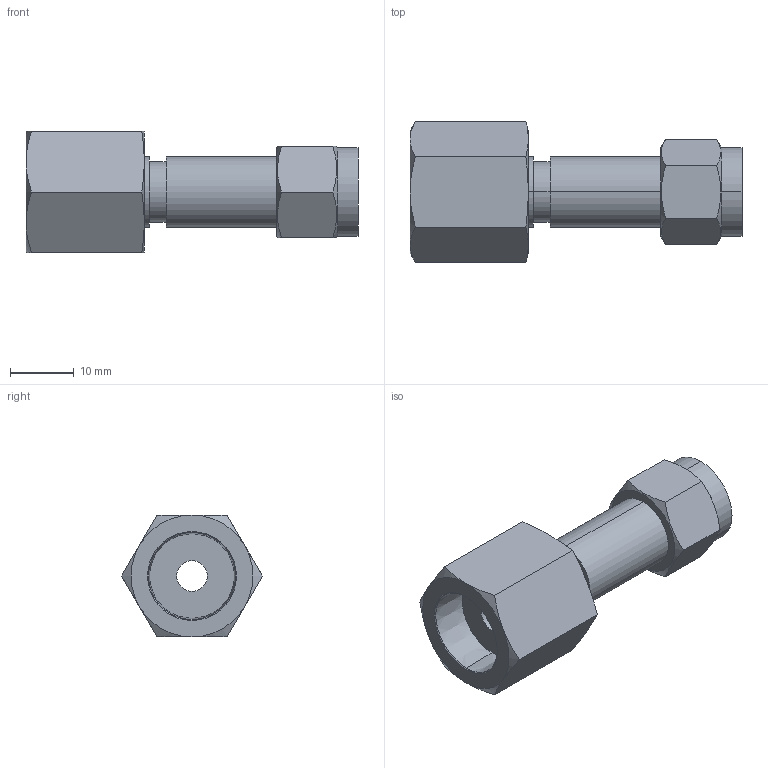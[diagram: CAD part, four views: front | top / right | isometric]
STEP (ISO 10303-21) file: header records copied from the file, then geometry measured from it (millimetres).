
FILE_DESCRIPTION (( 'STEP AP203' ), '1' );
FILE_NAME ('DSS04-04 SS.STEP', '2009-09-08T09:15:31', ( ' ' ), ( '' ), 'SwSTEP 2.0', 'SolidWorks 2008', '' );
FILE_SCHEMA (( 'CONFIG_CONTROL_DESIGN' ));
Length unit declared in the file: millimetre
Products named in the file (1): DSS04-04 SS
Bounding box: 51.9 x 22 x 19.05 mm (x, y, z)
Volume: 8029.6 mm3; surface area: 4301.9 mm2
Topology: 1 solids, 1 shells, 52 faces, 116 edges, 72 vertices
Faces by surface type: cone 20, plane 20, cylinder 12
Entity records: 1701 total; most frequent: CARTESIAN_POINT 505, ORIENTED_EDGE 232, DIRECTION 226, EDGE_CURVE 116, AXIS2_PLACEMENT_3D 97, VERTEX_POINT 72, EDGE_LOOP 60, ADVANCED_FACE 52
